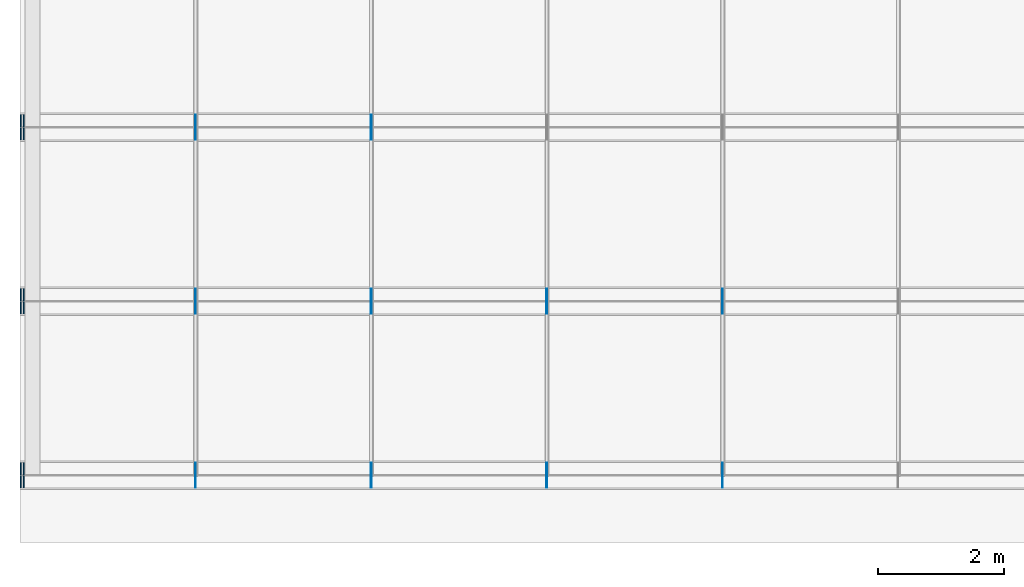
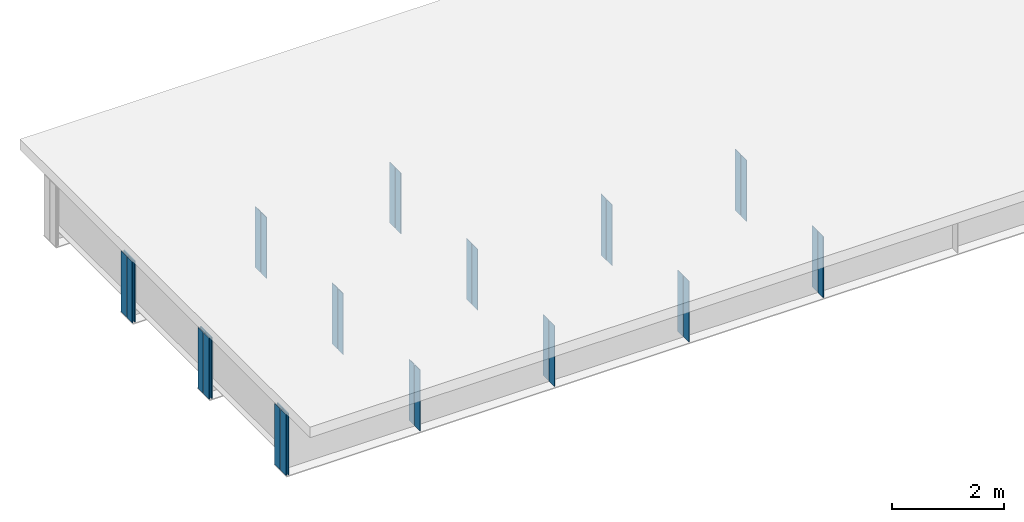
# One storey, part 2 of 10: 32 plates.
"""IFC4 building model written with IfcOpenShell, lengths in metres."""

from ifc_helpers import new_model, si_unit, frame, origin, origin_with_axes, origin_2d_with_axis, place, context, subcontext, project, spatial, rectangle, extrude, element, save


model = new_model("IFC4")

# Units and contexts
model_context = context("Model", 3, precision=1e-05, world=origin())
body_context = subcontext(model_context, "Body", "Model", "MODEL_VIEW")
ifc_project = project(units=[si_unit("LENGTHUNIT", "METRE"), si_unit("AREAUNIT", "SQUARE_METRE"), si_unit("VOLUMEUNIT", "CUBIC_METRE"), si_unit("PLANEANGLEUNIT", "RADIAN")], contexts=[model_context])

# Site, building, storey
site_placement = place(None, origin_with_axes())
site = spatial("IfcSite", under=ifc_project, at=site_placement, Name="Default Site")
building_placement = place(site_placement, origin_with_axes())
building = spatial("IfcBuilding", under=site, at=building_placement, Name="Bridge Structure")
storey_placement = place(building_placement, origin_with_axes())
storey = spatial("IfcBuildingStorey", under=building, at=storey_placement, Name="Superstructure")

# Plates
for number, where, z_axis, x_axis, name in (
    (1, (2.777, -4.021, -0.6675), (0.0, 0.0, 1.0), (1.0, 0.0, 0.0), "Intermediate Stiffener 1"),
    (2, (2.777, -4.229, -0.6675), (0.0, 0.0, 1.0), (1.0, 0.0, 0.0), "Intermediate Stiffener 1"),
    (3, (5.554, -4.021, -0.6675), (0.0, 0.0, 1.0), (1.0, 0.0, 0.0), "Intermediate Stiffener 1"),
    (4, (5.554, -4.229, -0.6675), (0.0, 0.0, 1.0), (1.0, 0.0, 0.0), "Intermediate Stiffener 1"),
    (5, (8.331, -4.021, -0.6675), (0.0, 0.0, 1.0), (1.0, 0.0, 0.0), "Intermediate Stiffener 1"),
    (6, (8.331, -4.229, -0.6675), (0.0, 0.0, 1.0), (1.0, 0.0, 0.0), "Intermediate Stiffener 1"),
    (7, (11.108, -4.021, -0.6675), (0.0, 0.0, 1.0), (1.0, 0.0, 0.0), "Intermediate Stiffener 1"),
    (8, (11.108, -4.229, -0.6675), (0.0, 0.0, 1.0), (1.0, 0.0, 0.0), "Intermediate Stiffener 1"),
):
    element("IfcPlate", number, at=place(storey_placement, frame(where, z_axis=z_axis, x_axis=x_axis)), inside=storey, Name=name, context=body_context, shape_type="SweptSolid", body=[
        extrude(rectangle(XDim=0.012, YDim=0.192, at=origin_2d_with_axis()), origin_with_axes(), (0.0, 0.0, 1.0), 1.335),
    ])
for number, where, z_axis, x_axis, name in (
    (9, (0.01, -4.021, -0.6675), (0.0, 0.0, 1.0), (1.0, 0.0, 0.0), "End Stiffener 1"),
    (10, (0.01, -4.229, -0.6675), (0.0, 0.0, 1.0), (1.0, 0.0, 0.0), "End Stiffener 1"),
    (11, (0.06, -4.021, -0.6675), (0.0, 0.0, 1.0), (1.0, 0.0, 0.0), "End Stiffener 1"),
    (12, (0.06, -4.229, -0.6675), (0.0, 0.0, 1.0), (1.0, 0.0, 0.0), "End Stiffener 1"),
):
    element("IfcPlate", number, at=place(storey_placement, frame(where, z_axis=z_axis, x_axis=x_axis)), inside=storey, Name=name, context=body_context, shape_type="SweptSolid", body=[
        extrude(rectangle(XDim=0.02, YDim=0.192, at=origin_2d_with_axis()), origin_with_axes(), (0.0, 0.0, 1.0), 1.335),
    ])
for number, where, z_axis, x_axis, name in (
    (13, (2.777, -1.2710000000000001, -0.6675), (0.0, 0.0, 1.0), (1.0, 0.0, 0.0), "Intermediate Stiffener 2"),
    (14, (2.777, -1.479, -0.6675), (0.0, 0.0, 1.0), (1.0, 0.0, 0.0), "Intermediate Stiffener 2"),
    (15, (5.554, -1.2710000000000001, -0.6675), (0.0, 0.0, 1.0), (1.0, 0.0, 0.0), "Intermediate Stiffener 2"),
    (16, (5.554, -1.479, -0.6675), (0.0, 0.0, 1.0), (1.0, 0.0, 0.0), "Intermediate Stiffener 2"),
    (17, (8.331, -1.2710000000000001, -0.6675), (0.0, 0.0, 1.0), (1.0, 0.0, 0.0), "Intermediate Stiffener 2"),
    (18, (8.331, -1.479, -0.6675), (0.0, 0.0, 1.0), (1.0, 0.0, 0.0), "Intermediate Stiffener 2"),
    (19, (11.108, -1.2710000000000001, -0.6675), (0.0, 0.0, 1.0), (1.0, 0.0, 0.0), "Intermediate Stiffener 2"),
    (20, (11.108, -1.479, -0.6675), (0.0, 0.0, 1.0), (1.0, 0.0, 0.0), "Intermediate Stiffener 2"),
):
    element("IfcPlate", number, at=place(storey_placement, frame(where, z_axis=z_axis, x_axis=x_axis)), inside=storey, Name=name, context=body_context, shape_type="SweptSolid", body=[
        extrude(rectangle(XDim=0.012, YDim=0.192, at=origin_2d_with_axis()), origin_with_axes(), (0.0, 0.0, 1.0), 1.335),
    ])
for number, where, z_axis, x_axis, name in (
    (21, (0.01, -1.2710000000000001, -0.6675), (0.0, 0.0, 1.0), (1.0, 0.0, 0.0), "End Stiffener 2"),
    (22, (0.01, -1.479, -0.6675), (0.0, 0.0, 1.0), (1.0, 0.0, 0.0), "End Stiffener 2"),
    (23, (0.06, -1.2710000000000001, -0.6675), (0.0, 0.0, 1.0), (1.0, 0.0, 0.0), "End Stiffener 2"),
    (24, (0.06, -1.479, -0.6675), (0.0, 0.0, 1.0), (1.0, 0.0, 0.0), "End Stiffener 2"),
):
    element("IfcPlate", number, at=place(storey_placement, frame(where, z_axis=z_axis, x_axis=x_axis)), inside=storey, Name=name, context=body_context, shape_type="SweptSolid", body=[
        extrude(rectangle(XDim=0.02, YDim=0.192, at=origin_2d_with_axis()), origin_with_axes(), (0.0, 0.0, 1.0), 1.335),
    ])
for number, where, z_axis, x_axis, name in (
    (25, (2.777, 1.479, -0.6675), (0.0, 0.0, 1.0), (1.0, 0.0, 0.0), "Intermediate Stiffener 3"),
    (26, (2.777, 1.2710000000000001, -0.6675), (0.0, 0.0, 1.0), (1.0, 0.0, 0.0), "Intermediate Stiffener 3"),
    (27, (5.554, 1.479, -0.6675), (0.0, 0.0, 1.0), (1.0, 0.0, 0.0), "Intermediate Stiffener 3"),
    (28, (5.554, 1.2710000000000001, -0.6675), (0.0, 0.0, 1.0), (1.0, 0.0, 0.0), "Intermediate Stiffener 3"),
):
    element("IfcPlate", number, at=place(storey_placement, frame(where, z_axis=z_axis, x_axis=x_axis)), inside=storey, Name=name, context=body_context, shape_type="SweptSolid", body=[
        extrude(rectangle(XDim=0.012, YDim=0.192, at=origin_2d_with_axis()), origin_with_axes(), (0.0, 0.0, 1.0), 1.335),
    ])
for number, where, z_axis, x_axis, name in (
    (29, (0.01, 1.479, -0.6675), (0.0, 0.0, 1.0), (1.0, 0.0, 0.0), "End Stiffener 3"),
    (30, (0.01, 1.2710000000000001, -0.6675), (0.0, 0.0, 1.0), (1.0, 0.0, 0.0), "End Stiffener 3"),
    (31, (0.06, 1.479, -0.6675), (0.0, 0.0, 1.0), (1.0, 0.0, 0.0), "End Stiffener 3"),
    (32, (0.06, 1.2710000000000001, -0.6675), (0.0, 0.0, 1.0), (1.0, 0.0, 0.0), "End Stiffener 3"),
):
    element("IfcPlate", number, at=place(storey_placement, frame(where, z_axis=z_axis, x_axis=x_axis)), inside=storey, Name=name, context=body_context, shape_type="SweptSolid", body=[
        extrude(rectangle(XDim=0.02, YDim=0.192, at=origin_2d_with_axis()), origin_with_axes(), (0.0, 0.0, 1.0), 1.335),
    ])

save(model, "model.ifc")
